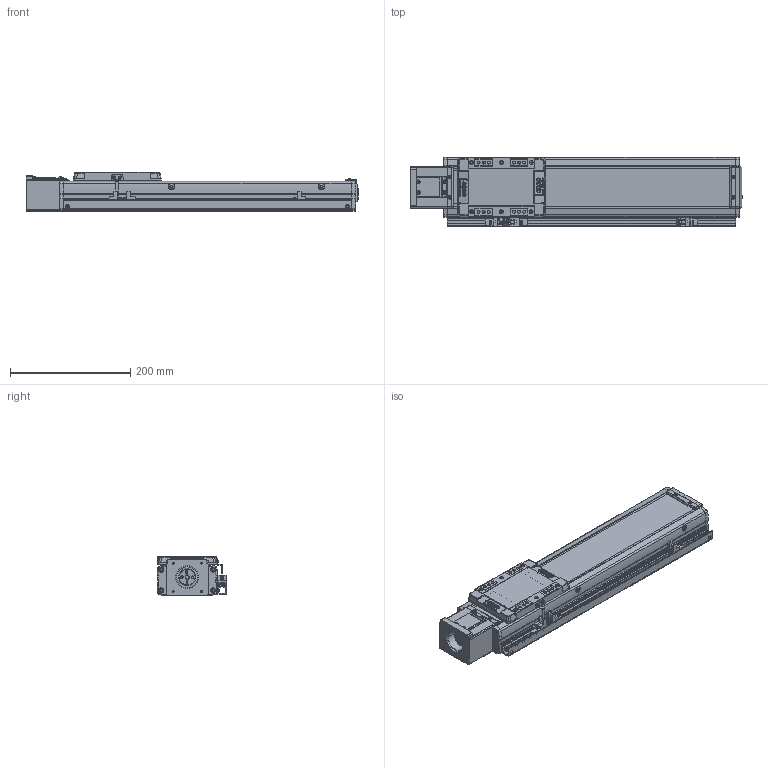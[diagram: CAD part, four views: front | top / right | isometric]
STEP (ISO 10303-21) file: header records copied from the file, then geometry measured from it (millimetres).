
FILE_DESCRIPTION(('STEP AP203'),'1');
FILE_NAME('Z:/Web/3D/SAN100/SAN100 양산용 (STEP)/300/SAN100ㅁㅁ-300S+3SR.stp','2014-06-04T06:31:49',(' '),(' '),'Spatial InterOp 3D',' ',' ');
FILE_SCHEMA(('CONFIG_CONTROL_DESIGN'));
Length unit declared in the file: millimetre
Products named in the file (58): 1; 2; 3; 4; 5; 6; 7; 8; 9; 10; 11; 12; 13; 14; 15; 16; 17; 18; 19; 20; 21; 22; 23; 24; 25; 26; 27; 28; 29; 30; 31; 32; 33; 34; 35; 36; 37; 38; 39; 40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
Bounding box: 552.5 x 116 x 66 mm (x, y, z)
Volume: 1670631.9 mm3; surface area: 482276.5 mm2
Topology: 58 solids, 59 shells, 2885 faces, 7578 edges, 4925 vertices
Faces by surface type: plane 1492, cylinder 1019, cone 237, sphere 72, torus 45, bspline 20
Entity records: 93877 total; most frequent: CARTESIAN_POINT 17840, DIRECTION 16002, ORIENTED_EDGE 14992, EDGE_CURVE 7496, AXIS2_PLACEMENT_3D 5762, VERTEX_POINT 4925, LINE 4478, VECTOR 4478
